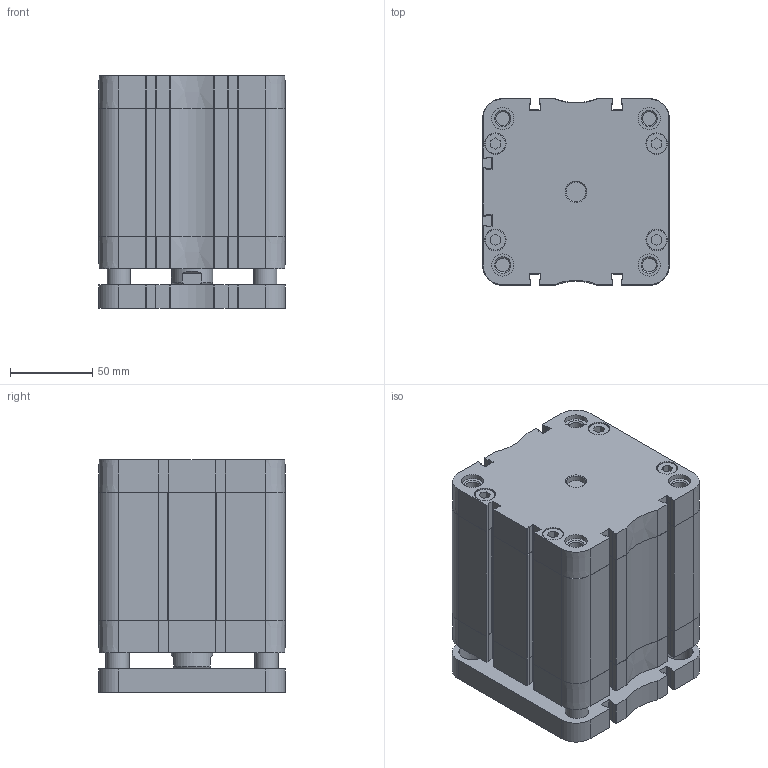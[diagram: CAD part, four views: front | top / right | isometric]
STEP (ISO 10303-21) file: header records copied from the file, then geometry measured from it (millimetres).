
FILE_DESCRIPTION(/* description */ ('Unknown'),/* implementation_level */ '2;1');
FILE_NAME(/* name */ 'ZINT 100_50',/* time_stamp */ '2024-11-13T10:08:45+01:00',/* author */ ('Unknown'),/* organization */ ('Unknown'),/* preprocessor_version */ 'ST-DEVELOPER v16.7',/* originating_system */ 'Solid Edge',/* authorisation */ 'Unknown');
FILE_SCHEMA (('AUTOMOTIVE_DESIGN {1 0 10303 214 3 1 1}'));
Length unit declared in the file: millimetre
Products named in the file (7): ZINT 100_50; Führungsstange; Profilrohr; Platte; Kolbenstange; Kit_2; Kit_1
Assembly tree (7 placements, depth 2):
  ZINT 100_50
    Führungsstange  x2
    Profilrohr
    Platte
    Kolbenstange
    Kit_2
    Kit_1
Bounding box: 113.5 x 113.5 x 141 mm (x, y, z)
Volume: 1245482.8 mm3; surface area: 234376.1 mm2
Topology: 7 solids, 9 shells, 940 faces, 2502 edges, 1654 vertices
Faces by surface type: plane 443, cylinder 284, bspline 114, cone 76, torus 23
Full cylindrical faces by diameter (mm): 6 x1, 6.647 x2, 8.376 x8, 8.566 x2, 9.1 x2, 10 x3, 12 x1, 12.7 x8, 13 x2, 13.1 x8, 13.5 x8, 14 x2, 16 x4, 18 x1, 25 x1, 25.6 x1, 26.9 x1, 28 x1, 29.8 x1, 30 x2, 100 x2
Entity records: 34711 total; most frequent: CARTESIAN_POINT 6703, ORIENTED_EDGE 4612, DIRECTION 4360, EDGE_CURVE 2306, VERTEX_POINT 1605, AXIS2_PLACEMENT_3D 1493, LINE 1374, VECTOR 1374
